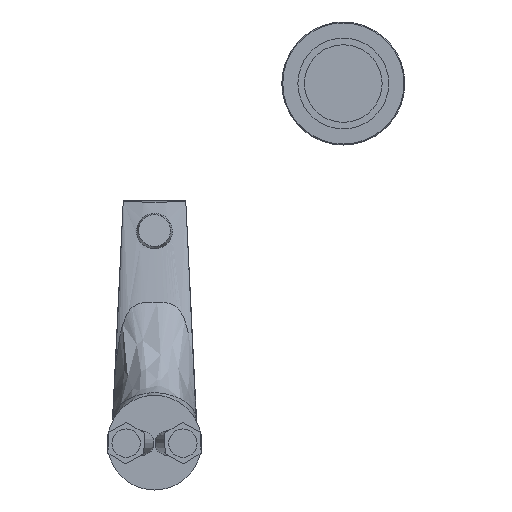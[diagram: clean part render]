
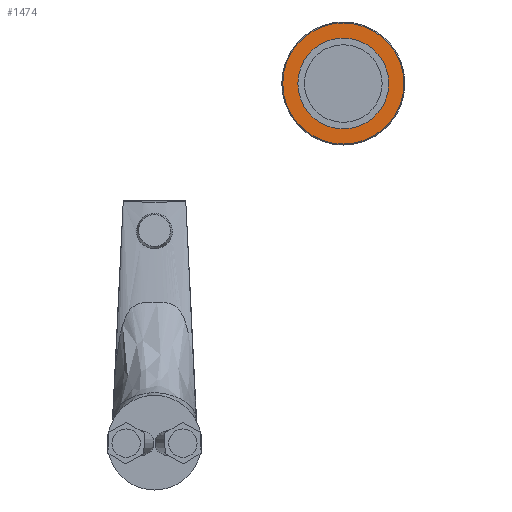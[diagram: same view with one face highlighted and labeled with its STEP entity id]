
A CAD part, front view. The second image highlights one B-rep face of the part: STEP entity #1474.
In plain terms, the highlighted planar face has unit normal (0, -1, 0).
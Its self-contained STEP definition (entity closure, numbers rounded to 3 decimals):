
#126=FACE_BOUND('',#340,.T.);
#162=PLANE('',#1635);
#244=FACE_OUTER_BOUND('',#339,.T.);
#339=EDGE_LOOP('',(#1283,#1284));
#340=EDGE_LOOP('',(#1285,#1286));
#536=CIRCLE('',#1633,32.);
#537=CIRCLE('',#1634,32.);
#538=CIRCLE('',#1636,24.);
#539=CIRCLE('',#1637,24.);
#680=VERTEX_POINT('',#3987);
#681=VERTEX_POINT('',#3988);
#682=VERTEX_POINT('',#3993);
#683=VERTEX_POINT('',#3994);
#882=EDGE_CURVE('',#680,#681,#536,.T.);
#883=EDGE_CURVE('',#681,#680,#537,.T.);
#885=EDGE_CURVE('',#682,#683,#538,.T.);
#886=EDGE_CURVE('',#683,#682,#539,.T.);
#1283=ORIENTED_EDGE('',*,*,#882,.T.);
#1284=ORIENTED_EDGE('',*,*,#883,.T.);
#1285=ORIENTED_EDGE('',*,*,#885,.F.);
#1286=ORIENTED_EDGE('',*,*,#886,.F.);
#1474=ADVANCED_FACE('',(#244,#126),#162,.T.);
#1633=AXIS2_PLACEMENT_3D('',#3989,#1965,#1966);
#1634=AXIS2_PLACEMENT_3D('',#3990,#1967,#1968);
#1635=AXIS2_PLACEMENT_3D('',#3992,#1970,#1971);
#1636=AXIS2_PLACEMENT_3D('',#3995,#1972,#1973);
#1637=AXIS2_PLACEMENT_3D('',#3996,#1974,#1975);
#1965=DIRECTION('center_axis',(0.,-1.,0.));
#1966=DIRECTION('ref_axis',(1.,0.,0.));
#1967=DIRECTION('center_axis',(0.,-1.,0.));
#1968=DIRECTION('ref_axis',(1.,0.,0.));
#1970=DIRECTION('center_axis',(0.,-1.,0.));
#1971=DIRECTION('ref_axis',(0.,0.,-1.));
#1972=DIRECTION('center_axis',(0.,-1.,0.));
#1973=DIRECTION('ref_axis',(1.,0.,0.));
#1974=DIRECTION('center_axis',(0.,-1.,0.));
#1975=DIRECTION('ref_axis',(1.,0.,0.));
#3987=CARTESIAN_POINT('',(99.75,-159.5,141.75));
#3988=CARTESIAN_POINT('',(99.75,-159.5,205.75));
#3989=CARTESIAN_POINT('Origin',(99.75,-159.5,173.75));
#3990=CARTESIAN_POINT('Origin',(99.75,-159.5,173.75));
#3992=CARTESIAN_POINT('Origin',(99.75,-159.5,149.75));
#3993=CARTESIAN_POINT('',(99.75,-159.5,149.75));
#3994=CARTESIAN_POINT('',(99.75,-159.5,197.75));
#3995=CARTESIAN_POINT('Origin',(99.75,-159.5,173.75));
#3996=CARTESIAN_POINT('Origin',(99.75,-159.5,173.75));
